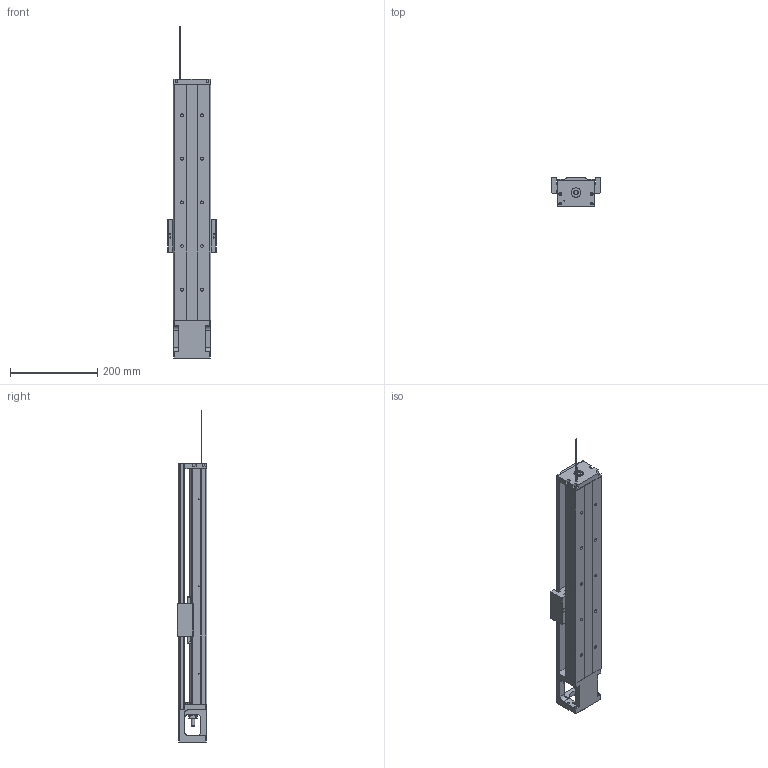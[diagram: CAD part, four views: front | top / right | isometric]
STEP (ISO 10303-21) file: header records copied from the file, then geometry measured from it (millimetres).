
FILE_DESCRIPTION(/* description */ (''),/* implementation_level */ '2;1');
FILE_NAME(/* name */ 'KP46N-540-C.stp',/* time_stamp */ '2020-06-05T09:53:11+08:00',/* author */ (''),/* organization */ (''),/* preprocessor_version */ 'ST-DEVELOPER v14',/* originating_system */ 'SIEMENS PLM Software NX 8.0',/* authorisation */ '');
FILE_SCHEMA (('AUTOMOTIVE_DESIGN { 1 0 10303 214 3 1 1 1 }'));
Length unit declared in the file: millimetre
Products named in the file (1): model1
Bounding box: 112 x 68 x 761.89 mm (x, y, z)
Volume: 1764772.4 mm3; surface area: 438572.5 mm2
Topology: 8 solids, 19 shells, 717 faces, 1869 edges, 1230 vertices
Faces by surface type: plane 345, cylinder 255, cone 62, bspline 47, torus 8
Full cylindrical faces by diameter (mm): 2.11 x4, 2.15 x6, 2.42 x8, 2.5 x4, 3 x6, 3.2 x4, 3.3 x12, 3.4 x8, 4 x4, 4.2 x4, 4.5 x8, 5 x14, 6 x8, 6.35 x2, 6.6 x10, 8 x1, 9.6 x1, 10 x3, 11 x10, 12 x1, 14.95 x2, 15 x1, 16 x2, 22 x3, 27.5 x1, 44 x1, 50 x1
Entity records: 32195 total; most frequent: CARTESIAN_POINT 13035, ORIENTED_EDGE 3210, DIRECTION 3170, EDGE_CURVE 1605, AXIS2_PLACEMENT_3D 1164, VERTEX_POINT 1153, EDGE_LOOP 1006, LINE 842
